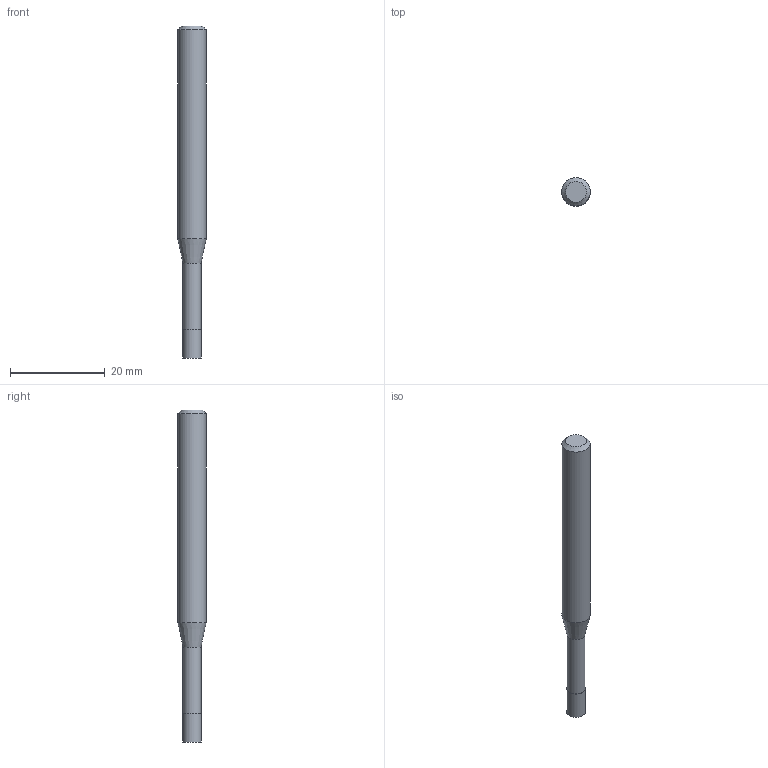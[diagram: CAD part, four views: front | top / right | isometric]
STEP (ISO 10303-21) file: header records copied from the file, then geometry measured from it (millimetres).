
FILE_DESCRIPTION((''),'2;1');
FILE_NAME('C:\Users\nsx150\AppData\Local\Temp\Mastercam 2021\EUJSUNXURU\TEMP.step','2021-04-22T10:28:16',(''),(''),'STEP Write','Mastercam 2021 ... CNC Software, Inc.','');
FILE_SCHEMA(('AUTOMOTIVE_DESIGN'));
Length unit declared in the file: millimetre
Products named in the file (1): None
Bounding box: 6 x 6 x 70 mm (x, y, z)
Volume: 1595.3 mm3; surface area: 1224 mm2
Topology: 2 solids, 2 shells, 9 faces, 12 edges, 7 vertices
Faces by surface type: plane 4, cylinder 3, cone 2
Full cylindrical faces by diameter (mm): 3.8 x1, 4 x1, 6 x1
Entity records: 211 total; most frequent: DIRECTION 36, CARTESIAN_POINT 25, AXIS2_PLACEMENT_3D 18, ORIENTED_EDGE 14, EDGE_LOOP 14, STYLED_ITEM 12, ADVANCED_FACE 9, FACE_BOUND 8
